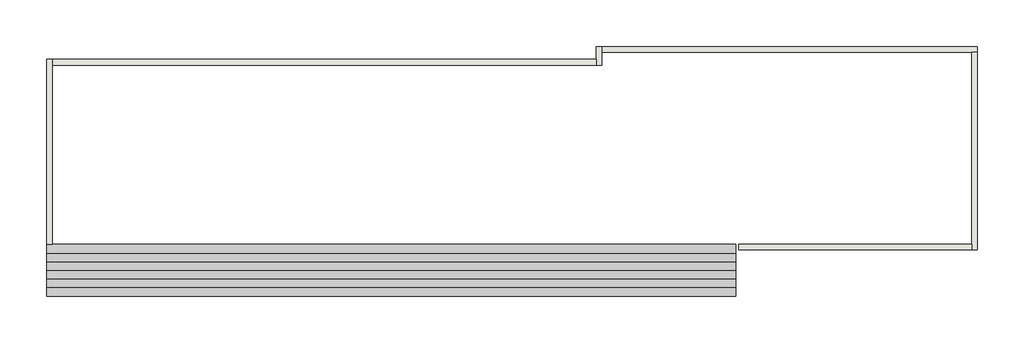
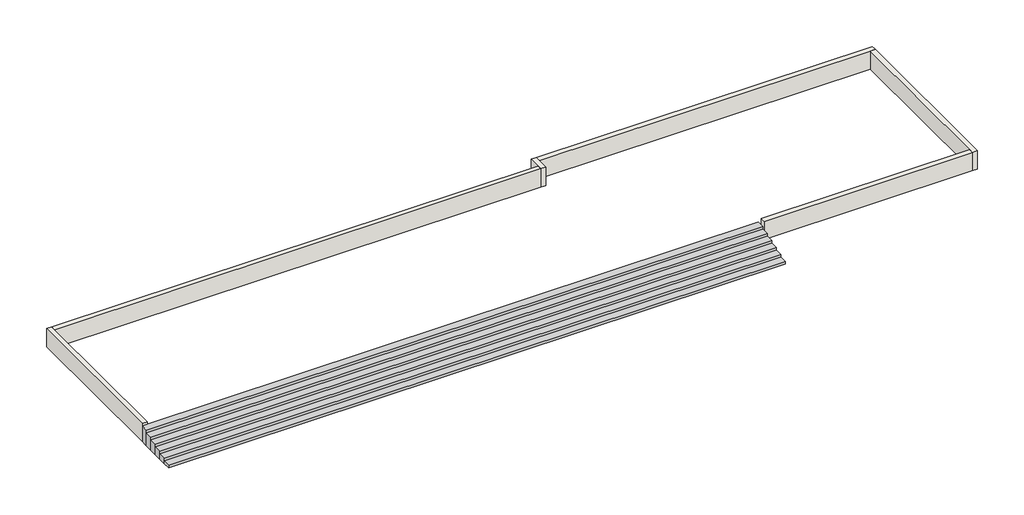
# One storey: 6 walls, 1 stair flight.
"""IFC4 building model written with IfcOpenShell, lengths in millimetres."""

import ifcopenshell
import ifcopenshell.guid

model = None  # the IFC model being written
_history = None  # IfcOwnerHistory: only IFC2X3 demands one
_inside = {}  # id of a spatial element -> (the spatial element, [elements in it])
_under = {}  # id of a project, library or spatial element -> (it, [spatial elements below it])
_declared = {}  # id of a project -> (the project, [libraries it declares])
_typed = {}  # id of a type object -> (the type object, [elements of that type])
_made_of = {}  # id of a material, layer set ... -> (it, [elements and type objects made of it])


def new_model(schema):
    """Start an empty IFC model of exactly this schema.

    Asked for "IFC4X3", IfcOpenShell would pick the latest addendum, in which some entities
    have other attributes; the version numbers below select the first issue.
    IFC2X3 requires an IfcOwnerHistory on every rooted entity: one is made here for all.
    """
    global model, _history
    if schema == "IFC4X3":
        model = ifcopenshell.file(schema_version=(4, 3, 0, 0))
    else:
        model = ifcopenshell.file(schema=schema)
    _inside.clear()
    _under.clear()
    _declared.clear()
    _typed.clear()
    _made_of.clear()
    _history = None
    if model.schema == "IFC2X3":
        org = make("IfcOrganization", Name="unknown")
        user = make(
            "IfcPersonAndOrganization",
            ThePerson=make("IfcPerson", FamilyName="unknown"),
            TheOrganization=org,
        )
        app = make(
            "IfcApplication",
            ApplicationDeveloper=org,
            Version="unknown",
            ApplicationFullName="unknown",
            ApplicationIdentifier="unknown",
        )
        _history = make(
            "IfcOwnerHistory",
            OwningUser=user,
            OwningApplication=app,
            ChangeAction="ADDED",
            CreationDate=0,
        )
    return model


def make(cls, **values):
    """One entity of the class cls with the attributes given. An attribute that is None is left unset."""
    return model.create_entity(
        cls, **{name: value for name, value in values.items() if value is not None}
    )


def rooted(cls, **values):
    """An entity with a GlobalId (a new one), such as an element, a storey or a relation."""
    return make(cls, GlobalId=ifcopenshell.guid.new(), OwnerHistory=_history, **values)


def si_unit(unit_type, name, prefix=None):
    """IfcSIUnit, for example si_unit("LENGTHUNIT", "METRE", prefix="MILLI")."""
    return make("IfcSIUnit", UnitType=unit_type, Prefix=prefix, Name=name)


def assignment(units):
    """IfcUnitAssignment: the units of a project."""
    return None if units is None else make("IfcUnitAssignment", Units=units)


def point(xyz):
    """IfcCartesianPoint."""
    return None if xyz is None else make("IfcCartesianPoint", Coordinates=xyz)


def direction(xyz):
    """IfcDirection."""
    return None if xyz is None else make("IfcDirection", DirectionRatios=xyz)


def frame(location, z_axis=None, x_axis=None):
    """IfcAxis2Placement3D, a coordinate frame: its origin and axes. An axis left out is left unset."""
    return make(
        "IfcAxis2Placement3D",
        Location=point(location),
        Axis=direction(z_axis),
        RefDirection=direction(x_axis),
    )


def origin():
    """The frame at (0, 0, 0) with its axes left unset."""
    return frame((0.0, 0.0, 0.0))


def place(relative_to, where):
    """IfcLocalPlacement: puts the frame where relative to a parent placement (None: the world)."""
    return make(
        "IfcLocalPlacement", PlacementRelTo=relative_to, RelativePlacement=where
    )


def context(
    kind, dimensions, precision=None, world=None, true_north=None, identifier=None
):
    """IfcGeometricRepresentationContext, for example the 3D "Model" context."""
    return make(
        "IfcGeometricRepresentationContext",
        ContextIdentifier=identifier,
        ContextType=kind,
        CoordinateSpaceDimension=dimensions,
        Precision=precision,
        WorldCoordinateSystem=world,
        TrueNorth=true_north,
    )


def project(units=None, contexts=None):
    """IfcProject with its units and contexts."""
    return rooted(
        "IfcProject",
        Name="project",
        RepresentationContexts=contexts,
        UnitsInContext=assignment(units),
    )


def spatial(cls, under=None, at=None, **own):
    """A site, building, storey or space (cls), placed at a placement, below another one or the project."""
    s = rooted(cls, ObjectPlacement=at, **own)
    if under is not None:
        _under.setdefault(under.id(), (under, []))[1].append(s)
    return s


def polyline(points):
    """IfcPolyline through the points."""
    return make("IfcPolyline", Points=[point(p) for p in points])


def outline(outer, holes=None, kind="AREA"):
    """IfcArbitraryClosedProfileDef: a profile drawn as a closed curve; with holes, ...WithVoids."""
    if holes is None:
        return make("IfcArbitraryClosedProfileDef", ProfileType=kind, OuterCurve=outer)
    return make(
        "IfcArbitraryProfileDefWithVoids",
        ProfileType=kind,
        OuterCurve=outer,
        InnerCurves=holes,
    )


def extrude(swept, where, along, depth):
    """IfcExtrudedAreaSolid: the profile swept, set in the frame where, extruded along a direction by depth."""
    return make(
        "IfcExtrudedAreaSolid",
        SweptArea=swept,
        Position=where,
        ExtrudedDirection=direction(along),
        Depth=depth,
    )


def faces_of(points, faces, orient=None, outer=None):
    """IfcFace entities. A face is a list of loops; a loop is a list of indices into points, from 0.

    orient and outer hold one flag for each loop. By default every Orientation is true, the
    first loop of a face is its IfcFaceOuterBound and the others are IfcFaceBound.
    """
    made = []
    for i, loops in enumerate(faces):
        bounds = []
        for j, loop in enumerate(loops):
            is_outer = j == 0 if outer is None else outer[i][j]
            bounds.append(
                make(
                    "IfcFaceOuterBound" if is_outer else "IfcFaceBound",
                    Bound=make("IfcPolyLoop", Polygon=[points[k] for k in loop]),
                    Orientation=True if orient is None else orient[i][j],
                )
            )
        made.append(make("IfcFace", Bounds=bounds))
    return made


def faceted_brep(points, faces, orient=None, outer=None, voids=None):
    """IfcFacetedBrep: a solid bounded by flat faces; with voids (closed shells), ...WithVoids."""
    shared = [point(p) for p in points]
    hull = make("IfcClosedShell", CfsFaces=faces_of(shared, faces, orient, outer))
    if voids is None:
        return make("IfcFacetedBrep", Outer=hull)
    return make(
        "IfcFacetedBrepWithVoids",
        Outer=hull,
        Voids=[
            make(cls, CfsFaces=faces_of(shared, fs, o, b)) for cls, fs, o, b in voids
        ],
    )


def shape(context_of_items, identifier, shape_type, items):
    """IfcShapeRepresentation: the items that make up one representation, for example the "Body"."""
    return make(
        "IfcShapeRepresentation",
        ContextOfItems=context_of_items,
        RepresentationIdentifier=identifier,
        RepresentationType=shape_type,
        Items=items,
    )


def made_of(thing, what):
    """Note that an element or type object is made of a material, layer set ...; save() writes the relation."""
    if what is not None:
        _made_of.setdefault(what.id(), (what, []))[1].append(thing)
    return thing


def element(
    cls,
    number,
    at=None,
    inside=None,
    cuts=None,
    type_object=None,
    material=None,
    context=None,
    identifier="Body",
    shape_type=None,
    held_by="IfcProductDefinitionShape",
    body=None,
    shapes=None,
    **own,
):
    """One element of the class cls, such as IfcWall. Its Tag is "e" and its number.

    at: its placement. inside: the storey or other place that contains it. cuts: it is an
    opening in that element (IfcRelVoidsElement). A single representation is given by context,
    identifier, shape_type and body (its items); several are given by shapes. held_by: the class
    of the entity that holds the representations. save() writes the other relations.
    """
    e = rooted(cls, Tag="e%d" % number, ObjectPlacement=at, **own)
    if body is not None:
        shapes = [shape(context, identifier, shape_type, body)]
    if shapes is not None:
        e.Representation = make(held_by, Representations=shapes)
    if inside is not None:
        _inside.setdefault(inside.id(), (inside, []))[1].append(e)
    if cuts is not None:
        rooted(
            "IfcRelVoidsElement", RelatingBuildingElement=cuts, RelatedOpeningElement=e
        )
    if type_object is not None:
        _typed.setdefault(type_object.id(), (type_object, []))[1].append(e)
    return made_of(e, material)


def aggregate(whole, parts):
    """IfcRelAggregates: a whole, such as a stair, and the parts it consists of."""
    return rooted("IfcRelAggregates", RelatingObject=whole, RelatedObjects=parts)


def save(model, path):
    """Write the relations noted so far, then the file.

    IfcRelAggregates (storeys below a building ...), IfcRelContainedInSpatialStructure (elements
    in a storey), IfcRelDefinesByType, IfcRelAssociatesMaterial and IfcRelDeclares: one each for
    every whole, place, type object, material and project.
    """
    for whole, parts in _under.values():
        aggregate(whole, parts)
    for where, things in _inside.values():
        rooted(
            "IfcRelContainedInSpatialStructure",
            RelatedElements=things,
            RelatingStructure=where,
        )
    for kind, things in _typed.values():
        rooted("IfcRelDefinesByType", RelatedObjects=things, RelatingType=kind)
    for what, things in _made_of.values():
        rooted("IfcRelAssociatesMaterial", RelatedObjects=things, RelatingMaterial=what)
    for by, libraries in _declared.values():
        rooted("IfcRelDeclares", RelatingContext=by, RelatedDefinitions=libraries)
    model.write(path)


model = new_model("IFC4")

# Units and contexts
model_context = context("Model", 3, world=origin())
ifc_project = project(units=[si_unit("LENGTHUNIT", "METRE", prefix="MILLI")], contexts=[model_context])

# Site, building, storey
site = spatial("IfcSite", under=ifc_project)
building = spatial("IfcBuilding", under=site)
storey = spatial("IfcBuildingStorey", under=building, Name="室外地坪", Elevation=-1000.0)

# Stair flight
placement = place(None, origin())
element("IfcStairFlight", 1, ObjectType="850mm 结构深度", at=placement, inside=storey, context=model_context, shape_type="Brep", body=[
    faceted_brep([(-8610.3834175, -8800.9601487, -857.1428571), (-8610.3834175, -9200.9601487, -857.1428571), (23366.9461532, -9200.9601487, -857.1428571), (23366.9461532, -8800.9601487, -857.1428571), (-8610.3834175, -8800.9601487, -1000.0), (-8610.3834175, -9200.9601487, -1000.0), (23366.9461532, -9200.9601487, -1000.0), (23366.9461532, -8800.9601487, -1000.0), (-8610.3834175, -8400.9601487, -714.2857143), (-8610.3834175, -8800.9601487, -714.2857143), (23366.9461532, -8800.9601487, -714.2857143), (23366.9461532, -8400.9601487, -714.2857143), (-8610.3834175, -8400.9601487, -1000.0), (23366.9461532, -8400.9601487, -1000.0), (-8610.3834175, -8000.9601487, -571.4285714), (-8610.3834175, -8400.9601487, -571.4285714), (23366.9461532, -8400.9601487, -571.4285714), (23366.9461532, -8000.9601487, -571.4285714), (-8610.3834175, -8000.9601487, -1000.0), (23366.9461532, -8000.9601487, -1000.0), (-8610.3834175, -7600.9601487, -428.5714286), (-8610.3834175, -8000.9601487, -428.5714286), (23366.9461532, -8000.9601487, -428.5714286), (23366.9461532, -7600.9601487, -428.5714286), (-8610.3834175, -7600.9601487, -1000.0), (23366.9461532, -7600.9601487, -1000.0), (-8610.3834175, -7200.9601487, -285.7142857), (-8610.3834175, -7600.9601487, -285.7142857), (23366.9461532, -7600.9601487, -285.7142857), (23366.9461532, -7200.9601487, -285.7142857), (-8610.3834175, -7200.9601487, -1000.0), (23366.9461532, -7200.9601487, -1000.0), (-8610.3834175, -6800.9601487, -142.8571429), (-8610.3834175, -7200.9601487, -142.8571429), (23366.9461532, -7200.9601487, -142.8571429), (23366.9461532, -6800.9601487, -142.8571429), (-8610.3834175, -6800.9601487, -1000.0), (23366.9461532, -6800.9601487, -1000.0)], [[[0, 1, 2, 3]], [[1, 0, 4, 5]], [[2, 1, 5, 6]], [[3, 2, 6, 7]], [[8, 9, 10, 11]], [[4, 0, 9, 8, 12]], [[0, 3, 10, 9]], [[3, 7, 13, 11, 10]], [[14, 15, 16, 17]], [[12, 8, 15, 14, 18]], [[8, 11, 16, 15]], [[11, 13, 19, 17, 16]], [[20, 21, 22, 23]], [[18, 14, 21, 20, 24]], [[14, 17, 22, 21]], [[17, 19, 25, 23, 22]], [[26, 27, 28, 29]], [[24, 20, 27, 26, 30]], [[20, 23, 28, 27]], [[23, 25, 31, 29, 28]], [[32, 33, 34, 35]], [[30, 26, 33, 32, 36]], [[26, 29, 34, 33]], [[29, 31, 37, 35, 34]], [[32, 35, 37, 36]], [[5, 4, 12, 18, 24, 30, 36, 37, 31, 25, 19, 13, 7, 6]]]),
])

# Walls
element("IfcWall", 2, ObjectType="墙裙", at=placement, inside=storey, context=model_context, shape_type="Brep", body=[
    faceted_brep([(-8350.3834175, -6800.9601487, -1000.0), (-8350.3834175, 1519.0398513, -1000.0), (-8350.3834175, 1779.0398513, -1000.0), (-8350.3834175, 1779.0398513, 0.0), (-8350.3834175, 1519.0398513, 0.0), (-8350.3834175, -6800.9601487, 0.0), (-8610.3834175, -6800.9601487, -1000.0), (-8610.3834175, -6800.9601487, 0.0), (-8610.3834175, 1779.0398513, 0.0), (-8610.3834175, 1779.0398513, -1000.0)], [[[0, 1, 2, 3, 4, 5]], [[6, 7, 8, 9]], [[2, 1, 0, 6, 9]], [[5, 4, 3, 8, 7]], [[0, 5, 7, 6]], [[3, 2, 9, 8]]]),
])
element("IfcWall", 3, ObjectType="墙裙", at=placement, inside=storey, context=model_context, shape_type="SweptSolid", body=[
    extrude(outline(polyline([(16889.6165825, 1519.0398513), (-8350.3834175, 1519.0398513), (-8350.3834175, 1779.0398513), (16889.6165825, 1779.0398513), (16889.6165825, 1519.0398513)])), frame((0.0, 0.0, -1000.0), z_axis=(0.0, 0.0, 1.0), x_axis=(1.0, 0.0, 0.0)), (0.0, 0.0, 1.0), 1000.0),
])
element("IfcWall", 4, ObjectType="墙裙", at=placement, inside=storey, context=model_context, shape_type="Brep", body=[
    faceted_brep([(17149.6165825, 1519.0398513, -1000.0), (17149.6165825, 2119.0398513, -1000.0), (17149.6165825, 2379.0398513, -1000.0), (17149.6165825, 2379.0398513, 0.0), (17149.6165825, 2119.0398513, 0.0), (17149.6165825, 1519.0398513, 0.0), (16889.6165825, 1519.0398513, -1000.0), (16889.6165825, 1519.0398513, 0.0), (16889.6165825, 1779.0398513, 0.0), (16889.6165825, 2379.0398513, 0.0), (16889.6165825, 2379.0398513, -1000.0), (16889.6165825, 1779.0398513, -1000.0)], [[[0, 1, 2, 3, 4, 5]], [[6, 7, 8, 9, 10, 11]], [[2, 1, 0, 6, 11, 10]], [[5, 4, 3, 9, 8, 7]], [[0, 5, 7, 6]], [[3, 2, 10, 9]]]),
])
element("IfcWall", 5, ObjectType="墙裙", at=placement, inside=storey, context=model_context, shape_type="Brep", body=[
    faceted_brep([(17149.6165825, 2119.0398513, -1000.0), (34324.6165825, 2119.0398513, -1000.0), (34584.6165825, 2119.0398513, -1000.0), (34584.6165825, 2119.0398513, 0.0), (34324.6165825, 2119.0398513, 0.0), (17149.6165825, 2119.0398513, 0.0), (17149.6165825, 2379.0398513, -1000.0), (17149.6165825, 2379.0398513, 0.0), (34584.6165825, 2379.0398513, 0.0), (34584.6165825, 2379.0398513, -1000.0)], [[[0, 1, 2, 3, 4, 5]], [[6, 7, 8, 9]], [[2, 1, 0, 6, 9]], [[5, 4, 3, 8, 7]], [[0, 5, 7, 6]], [[3, 2, 9, 8]]]),
])
element("IfcWall", 6, ObjectType="墙裙", at=placement, inside=storey, context=model_context, shape_type="Brep", body=[
    faceted_brep([(34324.6165825, 2119.0398513, -1000.0), (34324.6165825, -6800.9601487, -1000.0), (34324.6165825, -7060.9601487, -1000.0), (34324.6165825, -7060.9601487, 0.0), (34324.6165825, -6800.9601487, 0.0), (34324.6165825, 2119.0398513, 0.0), (34584.6165825, 2119.0398513, -1000.0), (34584.6165825, 2119.0398513, 0.0), (34584.6165825, -7060.9601487, 0.0), (34584.6165825, -7060.9601487, -1000.0)], [[[0, 1, 2, 3, 4, 5]], [[6, 7, 8, 9]], [[2, 1, 0, 6, 9]], [[5, 4, 3, 8, 7]], [[0, 5, 7, 6]], [[3, 2, 9, 8]]]),
])
element("IfcWall", 7, ObjectType="墙裙", at=placement, inside=storey, context=model_context, shape_type="SweptSolid", body=[
    extrude(outline(polyline([(23519.6165825, -6800.9601487), (34324.6165825, -6800.9601487), (34324.6165825, -7060.9601487), (23519.6165825, -7060.9601487), (23519.6165825, -6800.9601487)])), frame((0.0, 0.0, -1000.0), z_axis=(0.0, 0.0, 1.0), x_axis=(1.0, 0.0, 0.0)), (0.0, 0.0, 1.0), 1000.0),
])

save(model, "model.ifc")
